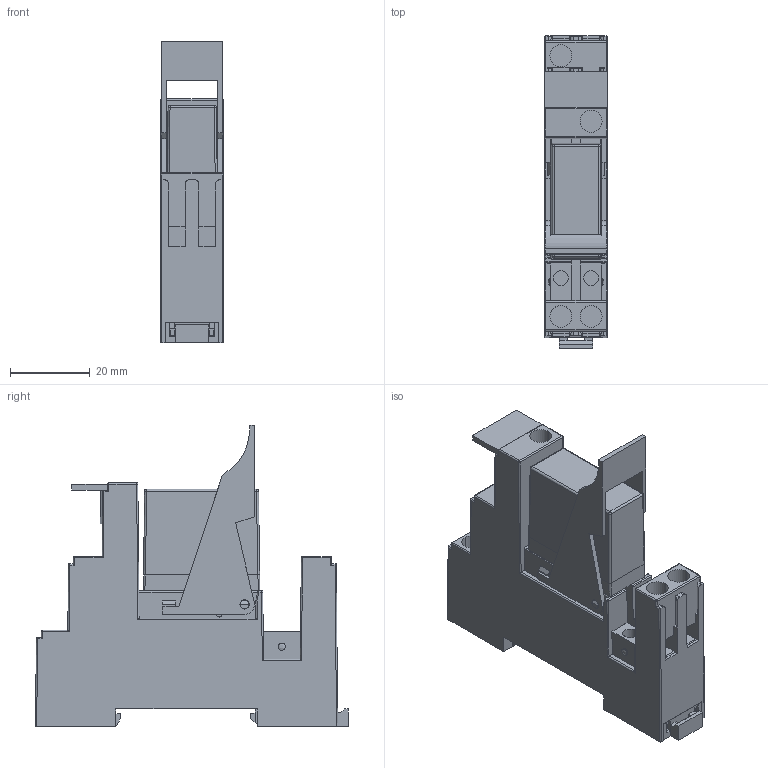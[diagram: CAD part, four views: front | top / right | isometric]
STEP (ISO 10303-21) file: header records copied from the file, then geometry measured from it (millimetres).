
FILE_DESCRIPTION (( 'STEP AP214' ), '1' );
FILE_NAME ('C18-xxxPT_plus_S18-M.STEP', '2024-04-04T09:05:20', ( '' ), ( '' ), 'SwSTEP 2.0', 'SolidWorks 2022', '' );
FILE_SCHEMA (( 'AUTOMOTIVE_DESIGN' ));
Length unit declared in the file: millimetre
Products named in the file (1): C18-xxxPT_plus_S18-M
Bounding box: 15.7 x 78.5 x 75.71 mm (x, y, z)
Volume: 47471.3 mm3; surface area: 19389 mm2
Topology: 1 solids, 22 shells, 665 faces, 1672 edges, 1052 vertices
Faces by surface type: plane 483, cylinder 157, bspline 21, sphere 4
Entity records: 27003 total; most frequent: CARTESIAN_POINT 4060, ORIENTED_EDGE 3334, DIRECTION 3038, EDGE_CURVE 1667, VECTOR 1354, LINE 1354, VERTEX_POINT 1052, AXIS2_PLACEMENT_3D 842
